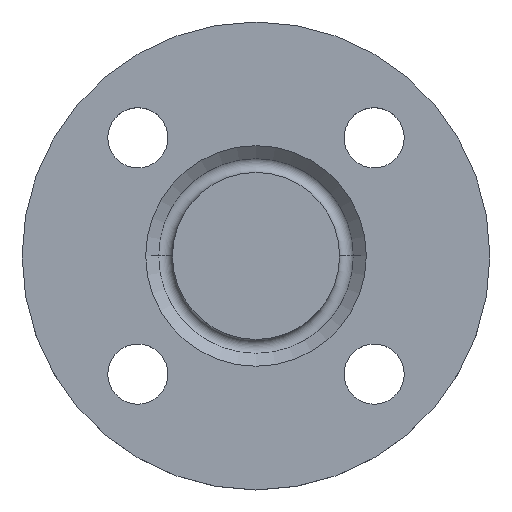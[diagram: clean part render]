
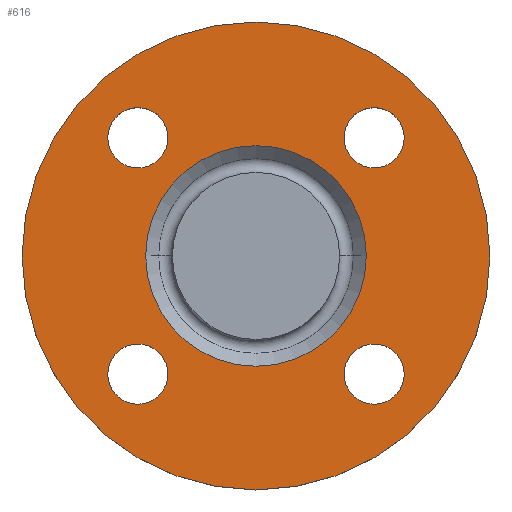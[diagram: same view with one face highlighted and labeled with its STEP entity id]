
A CAD part, top view. The second image highlights one B-rep face of the part: STEP entity #616.
In plain terms, the highlighted planar face has unit normal (0, 0, 1).
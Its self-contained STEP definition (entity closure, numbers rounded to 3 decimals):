
#5 = CARTESIAN_POINT ( 'NONE',  ( 0., 0., -2. ) ) ;
#28 = CIRCLE ( 'NONE', #295, 70. ) ;
#31 = EDGE_LOOP ( 'NONE', ( #94, #476 ) ) ;
#35 = AXIS2_PLACEMENT_3D ( 'NONE', #54, #189, #384 ) ;
#39 = EDGE_CURVE ( 'NONE', #266, #563, #28, .T. ) ;
#47 = DIRECTION ( 'NONE',  ( 0., 0., -1. ) ) ;
#49 = ORIENTED_EDGE ( 'NONE', *, *, #39, .F. ) ;
#53 = VERTEX_POINT ( 'NONE', #535 ) ;
#54 = CARTESIAN_POINT ( 'NONE',  ( 0., 0., -2. ) ) ;
#55 = CARTESIAN_POINT ( 'NONE',  ( -35.355, 35.355, -2. ) ) ;
#63 = DIRECTION ( 'NONE',  ( 0., 0., -1. ) ) ;
#69 = EDGE_LOOP ( 'NONE', ( #327, #617 ) ) ;
#70 = AXIS2_PLACEMENT_3D ( 'NONE', #580, #154, #339 ) ;
#72 = AXIS2_PLACEMENT_3D ( 'NONE', #172, #365, #555 ) ;
#73 = DIRECTION ( 'NONE',  ( 0., 0., 1. ) ) ;
#84 = CARTESIAN_POINT ( 'NONE',  ( 26.355, 35.355, -2. ) ) ;
#94 = ORIENTED_EDGE ( 'NONE', *, *, #200, .T. ) ;
#97 = AXIS2_PLACEMENT_3D ( 'NONE', #133, #316, #511 ) ;
#98 = CARTESIAN_POINT ( 'NONE',  ( 70., 0., -2. ) ) ;
#99 = ORIENTED_EDGE ( 'NONE', *, *, #416, .T. ) ;
#101 = CARTESIAN_POINT ( 'NONE',  ( 35.355, -35.355, -2. ) ) ;
#105 = CARTESIAN_POINT ( 'NONE',  ( 0., 0., -2. ) ) ;
#110 = CIRCLE ( 'NONE', #460, 33. ) ;
#112 = DIRECTION ( 'NONE',  ( 1., 0., 0. ) ) ;
#117 = FACE_OUTER_BOUND ( 'NONE', #163, .T. ) ;
#133 = CARTESIAN_POINT ( 'NONE',  ( -35.355, 35.355, -2. ) ) ;
#135 = EDGE_CURVE ( 'NONE', #53, #360, #148, .T. ) ;
#136 = AXIS2_PLACEMENT_3D ( 'NONE', #55, #236, #435 ) ;
#145 = VERTEX_POINT ( 'NONE', #84 ) ;
#147 = CIRCLE ( 'NONE', #70, 9. ) ;
#148 = CIRCLE ( 'NONE', #72, 9. ) ;
#150 = VERTEX_POINT ( 'NONE', #267 ) ;
#154 = DIRECTION ( 'NONE',  ( 0., 0., -1. ) ) ;
#158 = CARTESIAN_POINT ( 'NONE',  ( -70., 0., -2. ) ) ;
#163 = EDGE_LOOP ( 'NONE', ( #49, #334 ) ) ;
#165 = FACE_BOUND ( 'NONE', #31, .T. ) ;
#172 = CARTESIAN_POINT ( 'NONE',  ( -35.355, -35.355, -2. ) ) ;
#179 = DIRECTION ( 'NONE',  ( 0., 0., -1. ) ) ;
#182 = ORIENTED_EDGE ( 'NONE', *, *, #539, .T. ) ;
#189 = DIRECTION ( 'NONE',  ( 0., 0., -1. ) ) ;
#192 = DIRECTION ( 'NONE',  ( 0., 0., -1. ) ) ;
#194 = CARTESIAN_POINT ( 'NONE',  ( 44.355, -35.355, -2. ) ) ;
#200 = EDGE_CURVE ( 'NONE', #265, #216, #453, .T. ) ;
#210 = AXIS2_PLACEMENT_3D ( 'NONE', #101, #286, #481 ) ;
#216 = VERTEX_POINT ( 'NONE', #418 ) ;
#228 = DIRECTION ( 'NONE',  ( 1., 0., 0. ) ) ;
#236 = DIRECTION ( 'NONE',  ( 0., 0., -1. ) ) ;
#239 = CIRCLE ( 'NONE', #512, 9. ) ;
#243 = DIRECTION ( 'NONE',  ( 1., 0., 0. ) ) ;
#251 = VERTEX_POINT ( 'NONE', #517 ) ;
#252 = CIRCLE ( 'NONE', #524, 9. ) ;
#255 = DIRECTION ( 'NONE',  ( 1., 0., 0. ) ) ;
#262 = EDGE_LOOP ( 'NONE', ( #479, #279 ) ) ;
#265 = VERTEX_POINT ( 'NONE', #523 ) ;
#266 = VERTEX_POINT ( 'NONE', #98 ) ;
#267 = CARTESIAN_POINT ( 'NONE',  ( 26.355, -35.355, -2. ) ) ;
#270 = AXIS2_PLACEMENT_3D ( 'NONE', #5, #192, #386 ) ;
#279 = ORIENTED_EDGE ( 'NONE', *, *, #400, .T. ) ;
#284 = EDGE_LOOP ( 'NONE', ( #329, #99 ) ) ;
#286 = DIRECTION ( 'NONE',  ( 0., 0., -1. ) ) ;
#291 = DIRECTION ( 'NONE',  ( 0., 0., -1. ) ) ;
#295 = AXIS2_PLACEMENT_3D ( 'NONE', #105, #291, #486 ) ;
#304 = PLANE ( 'NONE',  #311 ) ;
#308 = VERTEX_POINT ( 'NONE', #528 ) ;
#311 = AXIS2_PLACEMENT_3D ( 'NONE', #497, #73, #255 ) ;
#315 = EDGE_CURVE ( 'NONE', #518, #150, #560, .T. ) ;
#316 = DIRECTION ( 'NONE',  ( 0., 0., -1. ) ) ;
#322 = EDGE_CURVE ( 'NONE', #216, #265, #487, .T. ) ;
#326 = EDGE_CURVE ( 'NONE', #308, #251, #407, .T. ) ;
#327 = ORIENTED_EDGE ( 'NONE', *, *, #550, .T. ) ;
#329 = ORIENTED_EDGE ( 'NONE', *, *, #566, .T. ) ;
#334 = ORIENTED_EDGE ( 'NONE', *, *, #500, .F. ) ;
#339 = DIRECTION ( 'NONE',  ( 1., 0., 0. ) ) ;
#343 = CARTESIAN_POINT ( 'NONE',  ( 35.355, 35.355, -2. ) ) ;
#351 = FACE_BOUND ( 'NONE', #284, .T. ) ;
#360 = VERTEX_POINT ( 'NONE', #441 ) ;
#364 = AXIS2_PLACEMENT_3D ( 'NONE', #343, #536, #112 ) ;
#365 = DIRECTION ( 'NONE',  ( 0., 0., -1. ) ) ;
#374 = DIRECTION ( 'NONE',  ( -1., 0., 0. ) ) ;
#383 = CIRCLE ( 'NONE', #35, 70. ) ;
#384 = DIRECTION ( 'NONE',  ( -1., 0., 0. ) ) ;
#386 = DIRECTION ( 'NONE',  ( -1., 0., 0. ) ) ;
#400 = EDGE_CURVE ( 'NONE', #251, #308, #110, .T. ) ;
#402 = FACE_BOUND ( 'NONE', #502, .T. ) ;
#407 = CIRCLE ( 'NONE', #270, 33. ) ;
#416 = EDGE_CURVE ( 'NONE', #145, #501, #239, .T. ) ;
#418 = CARTESIAN_POINT ( 'NONE',  ( -44.355, 35.355, -2. ) ) ;
#435 = DIRECTION ( 'NONE',  ( 1., 0., 0. ) ) ;
#441 = CARTESIAN_POINT ( 'NONE',  ( -26.355, -35.355, -2. ) ) ;
#452 = CIRCLE ( 'NONE', #364, 9. ) ;
#453 = CIRCLE ( 'NONE', #97, 9. ) ;
#460 = AXIS2_PLACEMENT_3D ( 'NONE', #609, #179, #374 ) ;
#473 = CARTESIAN_POINT ( 'NONE',  ( 35.355, 35.355, -2. ) ) ;
#476 = ORIENTED_EDGE ( 'NONE', *, *, #322, .T. ) ;
#479 = ORIENTED_EDGE ( 'NONE', *, *, #326, .T. ) ;
#481 = DIRECTION ( 'NONE',  ( 1., 0., 0. ) ) ;
#486 = DIRECTION ( 'NONE',  ( -1., 0., 0. ) ) ;
#487 = CIRCLE ( 'NONE', #136, 9. ) ;
#488 = CARTESIAN_POINT ( 'NONE',  ( -35.355, -35.355, -2. ) ) ;
#497 = CARTESIAN_POINT ( 'NONE',  ( 70., 0., -2. ) ) ;
#500 = EDGE_CURVE ( 'NONE', #563, #266, #383, .T. ) ;
#501 = VERTEX_POINT ( 'NONE', #576 ) ;
#502 = EDGE_LOOP ( 'NONE', ( #608, #182 ) ) ;
#511 = DIRECTION ( 'NONE',  ( 1., 0., 0. ) ) ;
#512 = AXIS2_PLACEMENT_3D ( 'NONE', #473, #47, #228 ) ;
#517 = CARTESIAN_POINT ( 'NONE',  ( -33., 0., -2. ) ) ;
#518 = VERTEX_POINT ( 'NONE', #194 ) ;
#523 = CARTESIAN_POINT ( 'NONE',  ( -26.355, 35.355, -2. ) ) ;
#524 = AXIS2_PLACEMENT_3D ( 'NONE', #488, #63, #243 ) ;
#528 = CARTESIAN_POINT ( 'NONE',  ( 33., 0., -2. ) ) ;
#535 = CARTESIAN_POINT ( 'NONE',  ( -44.355, -35.355, -2. ) ) ;
#536 = DIRECTION ( 'NONE',  ( 0., 0., -1. ) ) ;
#539 = EDGE_CURVE ( 'NONE', #150, #518, #147, .T. ) ;
#544 = FACE_BOUND ( 'NONE', #262, .T. ) ;
#550 = EDGE_CURVE ( 'NONE', #360, #53, #252, .T. ) ;
#555 = DIRECTION ( 'NONE',  ( 1., 0., 0. ) ) ;
#560 = CIRCLE ( 'NONE', #210, 9. ) ;
#563 = VERTEX_POINT ( 'NONE', #158 ) ;
#566 = EDGE_CURVE ( 'NONE', #501, #145, #452, .T. ) ;
#576 = CARTESIAN_POINT ( 'NONE',  ( 44.355, 35.355, -2. ) ) ;
#580 = CARTESIAN_POINT ( 'NONE',  ( 35.355, -35.355, -2. ) ) ;
#591 = FACE_BOUND ( 'NONE', #69, .T. ) ;
#608 = ORIENTED_EDGE ( 'NONE', *, *, #315, .T. ) ;
#609 = CARTESIAN_POINT ( 'NONE',  ( 0., 0., -2. ) ) ;
#616 = ADVANCED_FACE ( 'NONE', ( #402, #591, #165, #351, #544, #117 ), #304, .T. ) ;
#617 = ORIENTED_EDGE ( 'NONE', *, *, #135, .T. ) ;
